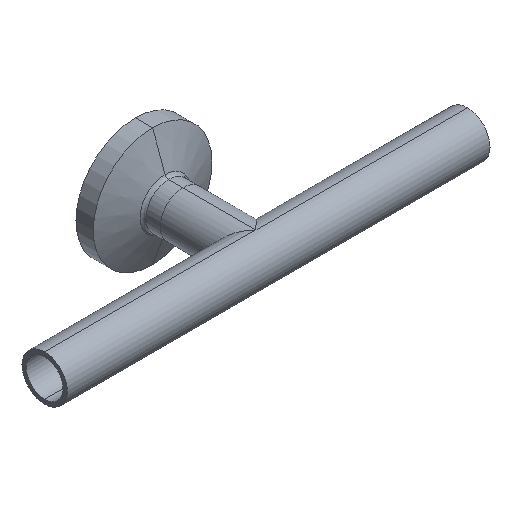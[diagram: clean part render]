
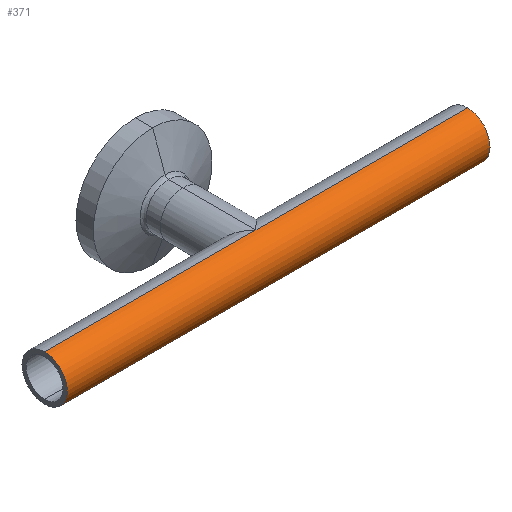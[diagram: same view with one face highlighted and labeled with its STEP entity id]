
A CAD part, isometric view. The second image highlights one B-rep face of the part: STEP entity #371.
In plain terms, the highlighted cylindrical face has radius 4.765 mm (diameter 9.53 mm), a partial arc.
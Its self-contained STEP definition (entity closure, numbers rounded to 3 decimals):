
#17 = CARTESIAN_POINT ( 'NONE',  ( -44.5, 0., 4.765 ) ) ;
#38 = CARTESIAN_POINT ( 'NONE',  ( 44.5, 0., 4.765 ) ) ;
#78 = VECTOR ( 'NONE', #207, 1000. ) ;
#103 = VERTEX_POINT ( 'NONE', #268 ) ;
#112 = AXIS2_PLACEMENT_3D ( 'NONE', #721, #453, #725 ) ;
#116 = EDGE_CURVE ( 'NONE', #254, #1030, #1021, .T. ) ;
#170 = VECTOR ( 'NONE', #756, 1000. ) ;
#175 = CYLINDRICAL_SURFACE ( 'NONE', #112, 4.765 ) ;
#207 = DIRECTION ( 'NONE',  ( 1., 0., 0. ) ) ;
#212 = LINE ( 'NONE', #934, #170 ) ;
#254 = VERTEX_POINT ( 'NONE', #17 ) ;
#268 = CARTESIAN_POINT ( 'NONE',  ( 0., 0., 4.765 ) ) ;
#284 = LINE ( 'NONE', #789, #78 ) ;
#290 = LINE ( 'NONE', #473, #528 ) ;
#364 = LINE ( 'NONE', #687, #1038 ) ;
#371 = ADVANCED_FACE ( 'NONE', ( #639 ), #175, .T. ) ;
#383 = ORIENTED_EDGE ( 'NONE', *, *, #660, .T. ) ;
#384 = AXIS2_PLACEMENT_3D ( 'NONE', #761, #921, #542 ) ;
#397 = DIRECTION ( 'NONE',  ( 0., 0., -1. ) ) ;
#451 = ORIENTED_EDGE ( 'NONE', *, *, #993, .F. ) ;
#453 = DIRECTION ( 'NONE',  ( 1., 0., 0. ) ) ;
#462 = CARTESIAN_POINT ( 'NONE',  ( -44.5, 0., -4.765 ) ) ;
#473 = CARTESIAN_POINT ( 'NONE',  ( -44.5, 0., 4.765 ) ) ;
#477 = ORIENTED_EDGE ( 'NONE', *, *, #901, .F. ) ;
#478 = EDGE_LOOP ( 'NONE', ( #451, #788, #1093, #902, #383, #477 ) ) ;
#481 = DIRECTION ( 'NONE',  ( 1., 0., 0. ) ) ;
#503 = VERTEX_POINT ( 'NONE', #38 ) ;
#508 = EDGE_CURVE ( 'NONE', #1030, #1023, #284, .T. ) ;
#528 = VECTOR ( 'NONE', #481, 1000. ) ;
#542 = DIRECTION ( 'NONE',  ( 0., 0., -1. ) ) ;
#639 = FACE_OUTER_BOUND ( 'NONE', #478, .T. ) ;
#660 = EDGE_CURVE ( 'NONE', #1115, #503, #1025, .T. ) ;
#665 = DIRECTION ( 'NONE',  ( 1., 0., 0. ) ) ;
#687 = CARTESIAN_POINT ( 'NONE',  ( -44.5, 0., 4.765 ) ) ;
#721 = CARTESIAN_POINT ( 'NONE',  ( -44.5, 0., 0. ) ) ;
#725 = DIRECTION ( 'NONE',  ( 0., 0., -1. ) ) ;
#756 = DIRECTION ( 'NONE',  ( 1., 0., 0. ) ) ;
#761 = CARTESIAN_POINT ( 'NONE',  ( 44.5, 0., 0. ) ) ;
#788 = ORIENTED_EDGE ( 'NONE', *, *, #116, .T. ) ;
#789 = CARTESIAN_POINT ( 'NONE',  ( -44.5, 0., -4.765 ) ) ;
#843 = CARTESIAN_POINT ( 'NONE',  ( 44.5, 0., -4.765 ) ) ;
#901 = EDGE_CURVE ( 'NONE', #103, #503, #364, .T. ) ;
#902 = ORIENTED_EDGE ( 'NONE', *, *, #1107, .T. ) ;
#921 = DIRECTION ( 'NONE',  ( -1., 0., 0. ) ) ;
#934 = CARTESIAN_POINT ( 'NONE',  ( -44.5, 0., -4.765 ) ) ;
#993 = EDGE_CURVE ( 'NONE', #254, #103, #290, .T. ) ;
#1021 = CIRCLE ( 'NONE', #1067, 4.765 ) ;
#1023 = VERTEX_POINT ( 'NONE', #1109 ) ;
#1025 = CIRCLE ( 'NONE', #384, 4.765 ) ;
#1029 = DIRECTION ( 'NONE',  ( 1., 0., 0. ) ) ;
#1030 = VERTEX_POINT ( 'NONE', #462 ) ;
#1038 = VECTOR ( 'NONE', #665, 1000. ) ;
#1044 = CARTESIAN_POINT ( 'NONE',  ( -44.5, 0., 0. ) ) ;
#1067 = AXIS2_PLACEMENT_3D ( 'NONE', #1044, #1029, #397 ) ;
#1093 = ORIENTED_EDGE ( 'NONE', *, *, #508, .T. ) ;
#1107 = EDGE_CURVE ( 'NONE', #1023, #1115, #212, .T. ) ;
#1109 = CARTESIAN_POINT ( 'NONE',  ( 0., 0., -4.765 ) ) ;
#1115 = VERTEX_POINT ( 'NONE', #843 ) ;
